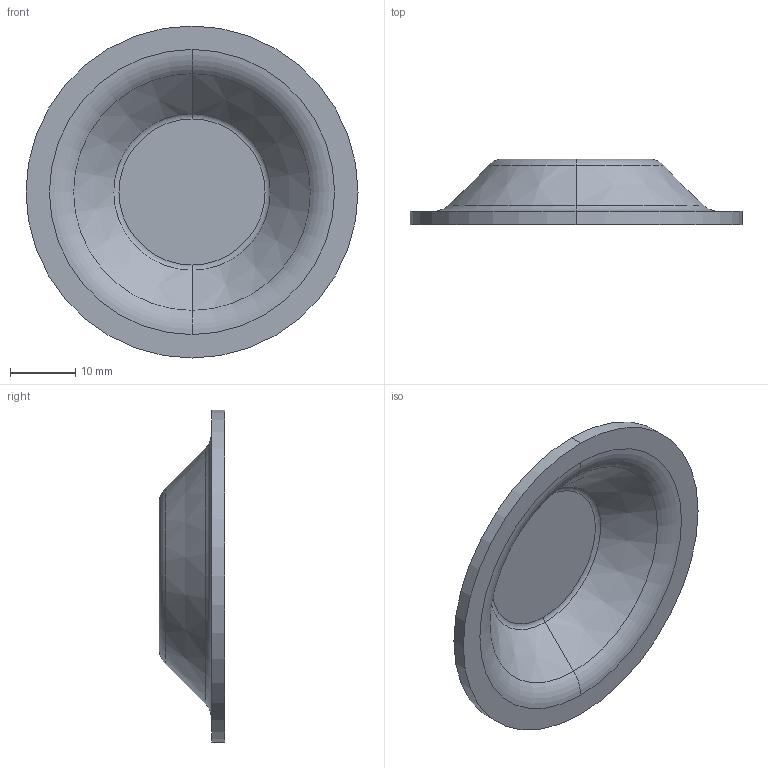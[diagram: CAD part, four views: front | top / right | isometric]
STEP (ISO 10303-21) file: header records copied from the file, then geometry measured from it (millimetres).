
FILE_DESCRIPTION (( 'STEP AP203' ), '1' );
FILE_NAME ('SO 1758242-10.STEP', '2024-09-16T17:20:50', ( '' ), ( '' ), 'SwSTEP 2.0', 'SolidWorks 2024', '' );
FILE_SCHEMA (( 'CONFIG_CONTROL_DESIGN' ));
Length unit declared in the file: inch
Products named in the file (1): SO 1758242-10
Bounding box: 50.8 x 10.03 x 50.8 mm (x, y, z)
Volume: 4739.4 mm3; surface area: 4989.1 mm2
Topology: 1 solids, 1 shells, 18 faces, 34 edges, 20 vertices
Faces by surface type: torus 8, cone 4, plane 4, cylinder 2
Entity records: 541 total; most frequent: DIRECTION 100, CARTESIAN_POINT 73, ORIENTED_EDGE 68, AXIS2_PLACEMENT_3D 47, EDGE_CURVE 34, CIRCLE 28, VERTEX_POINT 20, EDGE_LOOP 20
